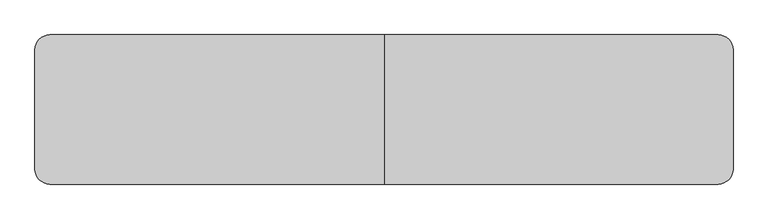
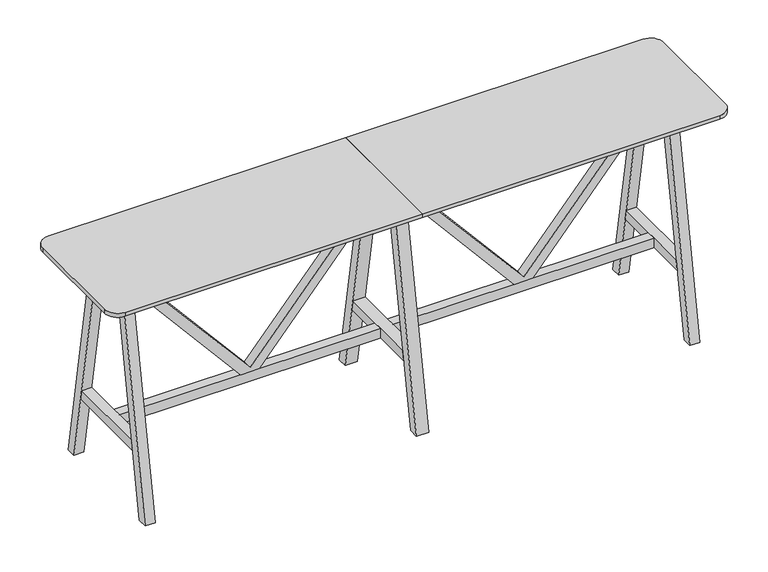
"""IFC4 building model written with IfcOpenShell, lengths in millimetres: furniture geometry, BDG_BossDesign_Tbls_AgentTables6Legs : AGE-HT-6L-2800-600-3D."""

from ifc_helpers import new_model, si_unit, point, frame, frame_2d, origin, place, context, project, spatial, polyline, circle_curve, trimmed, segment, composite_curve, outline, extrude, source, transform, mapped, element, save


def furniture_01a6464a(model_context):
    return source(origin(), model_context, "Body", "SweptSolid", [
        extrude(outline(polyline([(345.0, 574.0823957), (345.0, 658.4176043), (992.0, 1205.0), (1032.0, 1205.0), (1032.0, 1185.0), (365.0, 616.25), (1032.0, 47.5), (1032.0, 27.5), (992.0, 27.5), (345.0, 574.0823957)])), frame((0.0, -22.5000305, 0.0), z_axis=(0.0, 1.0, 0.0), x_axis=(0.0, 0.0, 1.0)), (0.0, 0.0, 1.0), 45.000061),
        extrude(outline(polyline([(345.0, -574.0823957), (992.0, -27.5), (1032.0, -27.5), (1032.0, -47.5), (365.0, -616.25), (1032.0, -1185.0), (1032.0, -1205.0), (992.0, -1205.0), (345.0, -658.4176043), (345.0, -574.0823957)])), frame((0.0, -22.5000305, 0.0), z_axis=(0.0, 1.0, 0.0), x_axis=(0.0, 0.0, 1.0)), (0.0, 0.0, 1.0), 45.000061),
        extrude(outline(polyline([(300.0, 0.0), (254.9999949, 0.0), (85.5, 970.0), (130.5000051, 970.0), (300.0, 0.0)])), frame((-27.5, 0.0, 0.0), z_axis=(1.0, 0.0, 0.0), x_axis=(0.0, 1.0, 0.0)), (0.0, 0.0, 1.0), 55.0),
        extrude(outline(polyline([(-300.0, 0.0), (-130.5000051, 970.0), (-85.5, 970.0), (-254.9999949, 0.0), (-300.0, 0.0)])), frame((-27.5, 0.0, 0.0), z_axis=(1.0, 0.0, 0.0), x_axis=(0.0, 1.0, 0.0)), (0.0, 0.0, 1.0), 55.0),
        extrude(outline(polyline([(202.5773161, 300.0), (-202.5773161, 300.0), (-194.7139143, 345.0), (194.7139143, 345.0), (202.5773161, 300.0)])), frame((-27.5, 0.0, 0.0), z_axis=(1.0, 0.0, 0.0), x_axis=(0.0, 1.0, 0.0)), (0.0, 0.0, 1.0), 55.0),
        extrude(outline(composite_curve([segment(polyline([(0.0, 300.0), (0.0, -300.0), (-1340.0, -300.0)]), True, "CONTINUOUS"), segment(trimmed(circle_curve(frame_2d((-1340.0, -240.0)), 60.0), [point((-1340.0, -300.0))], [point((-1400.0, -240.0))], False, "CARTESIAN"), True, "CONTINUOUS"), segment(polyline([(-1400.0, -240.0), (-1400.0, 240.0)]), True, "CONTINUOUS"), segment(trimmed(circle_curve(frame_2d((-1340.0, 240.0)), 60.0), [point((-1400.0, 240.0))], [point((-1340.0, 300.0))], False, "CARTESIAN"), True, "CONTINUOUS"), segment(polyline([(-1340.0, 300.0), (0.0, 300.0)]), True, "CONTINUOUS")], self_intersect=False)), frame((0.0, 0.0, 1032.0), z_axis=(0.0, 0.0, 1.0), x_axis=(1.0, 0.0, 0.0)), (0.0, 0.0, 1.0), 18.0),
        extrude(outline(polyline([(-194.7139143, 345.0), (194.7139143, 345.0), (202.5773161, 300.0), (-202.5773161, 300.0), (-194.7139143, 345.0)])), frame((1205.0, 0.0, 0.0), z_axis=(1.0, 0.0, 0.0), x_axis=(0.0, 1.0, 0.0)), (0.0, 0.0, 1.0), 45.0),
        extrude(outline(polyline([(300.0, 0.0), (254.9999949, 0.0), (85.5, 970.0), (130.5000051, 970.0), (300.0, 0.0)])), frame((-1250.0, 0.0, 0.0), z_axis=(1.0, 0.0, 0.0), x_axis=(0.0, 1.0, 0.0)), (0.0, 0.0, 1.0), 45.0),
        extrude(outline(polyline([(-300.0, 0.0), (-130.5000051, 970.0), (-85.5, 970.0), (-254.9999949, 0.0), (-300.0, 0.0)])), frame((-1250.0, 0.0, 0.0), z_axis=(1.0, 0.0, 0.0), x_axis=(0.0, 1.0, 0.0)), (0.0, 0.0, 1.0), 45.0),
        extrude(outline(polyline([(-194.7139143, 345.0), (194.7139143, 345.0), (202.5773161, 300.0), (-202.5773161, 300.0), (-194.7139143, 345.0)])), frame((-1250.0, 0.0, 0.0), z_axis=(1.0, 0.0, 0.0), x_axis=(0.0, 1.0, 0.0)), (0.0, 0.0, 1.0), 45.0),
        extrude(outline(polyline([(-126.6006165, 944.973938), (-104.2770691, 1032.0), (-79.5, 1032.0), (-101.8235474, 944.973938), (-126.6006165, 944.973938)])), frame((-1205.0, 0.0, 0.0), z_axis=(1.0, 0.0, 0.0), x_axis=(0.0, 1.0, 0.0)), (0.0, 0.0, 1.0), 2410.0),
        extrude(outline(polyline([(126.6006165, 944.973938), (101.8235474, 944.973938), (79.5, 1032.0), (104.2770691, 1032.0), (126.6006165, 944.973938)])), frame((-1205.0, 0.0, 0.0), z_axis=(1.0, 0.0, 0.0), x_axis=(0.0, 1.0, 0.0)), (0.0, 0.0, 1.0), 2410.0),
        extrude(outline(polyline([(299.7999878, 0.0), (254.7999827, 0.0), (85.5, 970.0), (130.5000051, 970.0), (299.7999878, 0.0)])), frame((1205.0, 0.0, 0.0), z_axis=(1.0, 0.0, 0.0), x_axis=(0.0, 1.0, 0.0)), (0.0, 0.0, 1.0), 45.0),
        extrude(outline(polyline([(-299.7999878, 0.0), (-130.5000051, 970.0), (-85.5, 970.0), (-254.7999827, 0.0), (-299.7999878, 0.0)])), frame((1205.0, 0.0, 0.0), z_axis=(1.0, 0.0, 0.0), x_axis=(0.0, 1.0, 0.0)), (0.0, 0.0, 1.0), 45.0),
        extrude(outline(polyline([(-27.5, 22.5000305), (-27.5, -22.5000305), (-1205.0, -22.5000305), (-1205.0, 22.5000305), (-27.5, 22.5000305)])), frame((0.0, 0.0, 300.0), z_axis=(0.0, 0.0, 1.0), x_axis=(1.0, 0.0, 0.0)), (0.0, 0.0, 1.0), 45.0),
        extrude(outline(polyline([(27.5, -22.5000305), (27.5, 22.5000305), (1205.0, 22.5000305), (1205.0, -22.5000305), (27.5, -22.5000305)])), frame((0.0, 0.0, 300.0), z_axis=(0.0, 0.0, 1.0), x_axis=(1.0, 0.0, 0.0)), (0.0, 0.0, 1.0), 45.0),
        extrude(outline(composite_curve([segment(trimmed(circle_curve(frame_2d((1340.0, 240.0)), 60.0), [point((1340.0, 300.0))], [point((1400.0, 240.0))], False, "CARTESIAN"), True, "CONTINUOUS"), segment(polyline([(1400.0, 240.0), (1400.0, -240.0)]), True, "CONTINUOUS"), segment(trimmed(circle_curve(frame_2d((1340.0, -240.0)), 60.0), [point((1400.0, -240.0))], [point((1340.0, -300.0))], False, "CARTESIAN"), True, "CONTINUOUS"), segment(polyline([(1340.0, -300.0), (0.0, -300.0), (0.0, 300.0), (1340.0, 300.0)]), True, "CONTINUOUS")], self_intersect=False)), frame((0.0, 0.0, 1032.0), z_axis=(0.0, 0.0, 1.0), x_axis=(1.0, 0.0, 0.0)), (0.0, 0.0, 1.0), 18.0),
    ])


if __name__ == "__main__":
    model = new_model("IFC4")
    model_context = context("Model", 3, world=origin())
    ifc_project = project(units=[si_unit("LENGTHUNIT", "METRE", prefix="MILLI")], contexts=[model_context])
    site = spatial("IfcSite", under=ifc_project)
    building = spatial("IfcBuilding", under=site)
    placement = place(None, origin())
    furniture_shape = furniture_01a6464a(model_context)
    element("IfcFurniture", 1, ObjectType="BDG_BossDesign_Tbls_AgentTables6Legs : AGE-HT-6L-2800-600-3D", at=placement, inside=building, context=model_context, shape_type="MappedRepresentation", body=[
        mapped(furniture_shape, transform((0.0, 0.0, 0.0), x_axis=(1.0, 0.0, 0.0), y_axis=(0.0, 1.0, 0.0), z_axis=(0.0, 0.0, 1.0))),
    ])
    save(model, "model.ifc")
